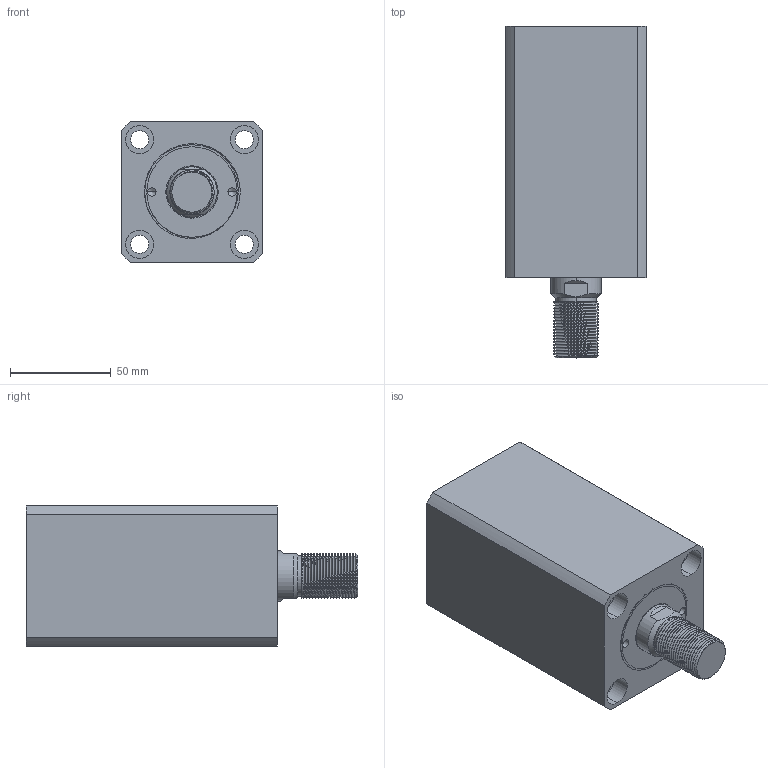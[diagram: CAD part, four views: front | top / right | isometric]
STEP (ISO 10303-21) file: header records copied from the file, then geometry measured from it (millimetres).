
FILE_DESCRIPTION (( 'STEP AP214' ), '1' );
FILE_NAME ('chtb-sdmb40x70w_asm.STEP', '2018-06-07T00:43:22', ( 'Windows' ), ( 'Microsoft' ), 'SwSTEP 2.0', 'SolidWorks 2015', '' );
FILE_SCHEMA (( 'AUTOMOTIVE_DESIGN' ));
Length unit declared in the file: millimetre
Products named in the file (4): CHTB-SD40X70WHSG; chtb-sdmb40x70w_asm; CHTB-SD40QG; CHTB-SDMB40X70NBT
Assembly tree (3 placements, depth 2):
  chtb-sdmb40x70w_asm
    CHTB-SD40X70WHSG
    CHTB-SDMB40X70NBT
    CHTB-SD40QG
Bounding box: 70 x 165 x 70 mm (x, y, z)
Volume: 524159.5 mm3; surface area: 104156.9 mm2
Topology: 3 solids, 4 shells, 201 faces, 539 edges, 359 vertices
Faces by surface type: cylinder 122, plane 38, bspline 16, torus 14, cone 11
Entity records: 13455 total; most frequent: CARTESIAN_POINT 8586, ORIENTED_EDGE 1066, DIRECTION 904, EDGE_CURVE 533, AXIS2_PLACEMENT_3D 374, VERTEX_POINT 359, EDGE_LOOP 238, ADVANCED_FACE 201
